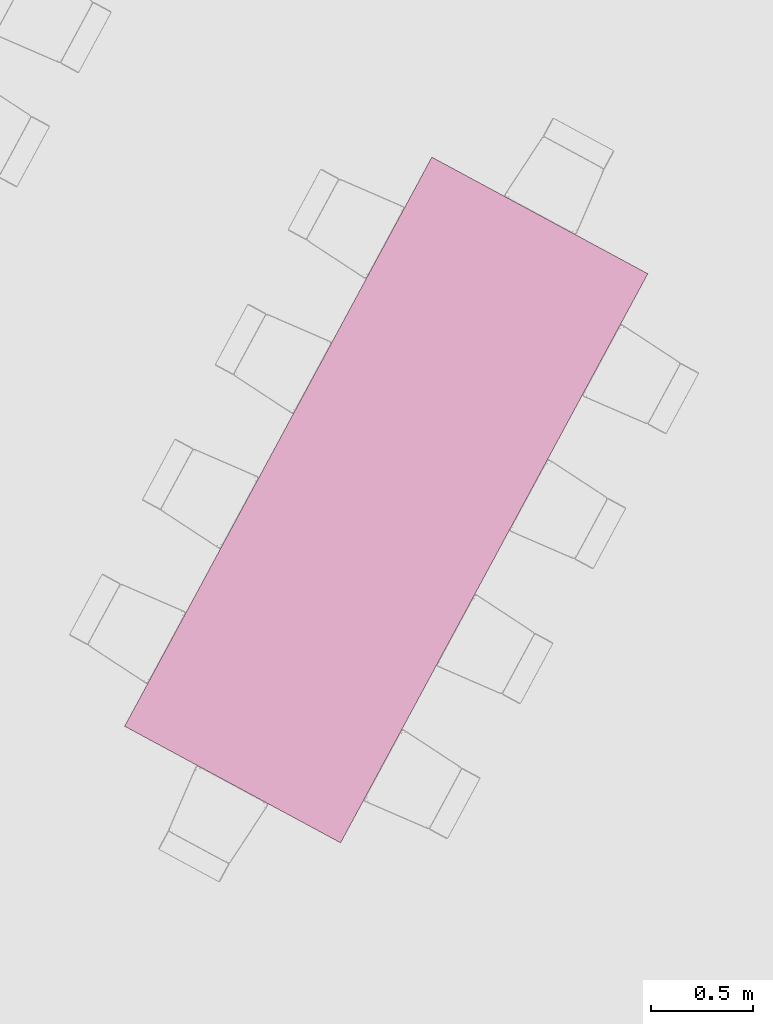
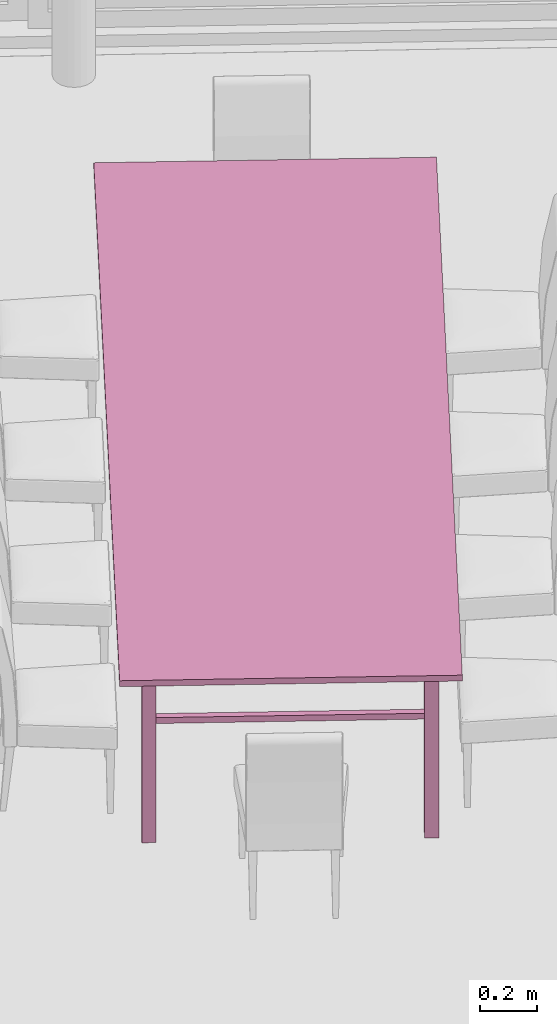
# One storey, part 38 of 52: 1 furnishing.
"""IFC2X3 building model written with IfcOpenShell, lengths in metres."""

from ifc_helpers import new_model, entity, si_unit, converted_unit, derived_unit, money_unit, direction, frame, origin_with_axes, place, context, subcontext, project, spatial, faceted_brep, type_object, element, save


model = new_model("IFC2X3")

# Units and contexts
model_context = context("Model", 3, precision=1e-05, world=origin_with_axes(), true_north=direction((0.0, 1.0)))
body_context = subcontext(model_context, "Body", "Model", "MODEL_VIEW")
ifc_project = project(units=[si_unit("LENGTHUNIT", "METRE"), si_unit("AREAUNIT", "SQUARE_METRE"), si_unit("VOLUMEUNIT", "CUBIC_METRE"), converted_unit("PLANEANGLEUNIT", "DEGREE", entity("IfcPlaneAngleMeasure", 0.0174532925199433), si_unit("PLANEANGLEUNIT", "RADIAN"), dimensions=[0, 0, 0, 0, 0, 0, 0]), money_unit("EUR"), converted_unit("TIMEUNIT", "Year", entity("IfcTimeMeasure", 31556926.0), si_unit("TIMEUNIT", "SECOND"), dimensions=[0, 0, 1, 0, 0, 0, 0]), si_unit("MASSUNIT", "GRAM", prefix="KILO"), si_unit("THERMODYNAMICTEMPERATUREUNIT", "DEGREE_CELSIUS"), si_unit("LUMINOUSINTENSITYUNIT", "LUMEN"), si_unit("ENERGYUNIT", "JOULE", prefix="MEGA"), derived_unit("THERMALCONDUCTANCEUNIT", [(si_unit("POWERUNIT", "WATT"), 1), (si_unit("LENGTHUNIT", "METRE"), -1), (si_unit("THERMODYNAMICTEMPERATUREUNIT", "KELVIN"), -1)]), derived_unit("SPECIFICHEATCAPACITYUNIT", [(si_unit("ENERGYUNIT", "JOULE"), 1), (si_unit("MASSUNIT", "GRAM", prefix="KILO"), -1), (si_unit("THERMODYNAMICTEMPERATUREUNIT", "KELVIN"), -1)]), derived_unit("MASSDENSITYUNIT", [(si_unit("MASSUNIT", "GRAM", prefix="KILO"), 1), (si_unit("VOLUMEUNIT", "CUBIC_METRE"), -1)])], contexts=[model_context])

# Site, building, storey
site_placement = place(None, frame((-3.949935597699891, 1.740105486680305, 0.0), z_axis=(0.0, 0.0, 1.0), x_axis=(0.8799804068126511, -0.475009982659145, 0.0)))
site = spatial("IfcSite", under=ifc_project, at=site_placement, Name="Gelände", CompositionType="ELEMENT")
building_placement = place(site_placement, origin_with_axes())
building = spatial("IfcBuilding", under=site, at=building_placement, Name="Gebäude", CompositionType="ELEMENT")
storey_placement = place(building_placement, origin_with_axes())
storey = spatial("IfcBuildingStorey", under=building, at=storey_placement, Name="Erdgeschoss", CompositionType="ELEMENT", Elevation=0.0)

# Furnishing
furnishing_element_type = type_object("IfcFurnishingElementType", Name="Tisch rechteckig 1 22")
furnishing_placement = place(storey_placement, frame((20.36440704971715, 10.19223236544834, 0.0), z_axis=(0.0, 0.0, 1.0), x_axis=(1.0, 0.0, 0.0)))
element("IfcFurnishingElement", 1, at=furnishing_placement, inside=storey, type_object=furnishing_element_type, Name="Objekt-0073", context=body_context, shape_type="Brep", body=[
    faceted_brep([(0.13, 0.08, 0.0), (0.08, 0.08, 0.0), (0.08, 0.13, 0.0), (0.13, 0.13, 0.0), (0.13, 0.08, 0.725), (0.08, 0.08, 0.725), (0.08, 0.13, 0.725), (0.13, 0.13, 0.725)], [[[0, 1, 2, 3]], [[1, 0, 4, 5]], [[2, 1, 5, 6]], [[3, 2, 6, 7]], [[0, 3, 7, 4]], [[5, 4, 7, 6]]]),
    faceted_brep([(1.119999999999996, 0.08, 0.0), (1.069999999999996, 0.08, 0.0), (1.069999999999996, 0.13, 0.0), (1.119999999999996, 0.13, 0.0), (1.119999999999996, 0.08, 0.725), (1.069999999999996, 0.08, 0.725), (1.069999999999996, 0.13, 0.725), (1.119999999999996, 0.13, 0.725)], [[[0, 1, 2, 3]], [[1, 0, 4, 5]], [[2, 1, 5, 6]], [[3, 2, 6, 7]], [[0, 3, 7, 4]], [[5, 4, 7, 6]]]),
    faceted_brep([(0.13, 3.032064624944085, 0.0), (0.08, 3.032064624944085, 0.0), (0.08, 3.082064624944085, 0.0), (0.13, 3.082064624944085, 0.0), (0.13, 3.032064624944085, 0.725), (0.08, 3.032064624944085, 0.725), (0.08, 3.082064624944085, 0.725), (0.13, 3.082064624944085, 0.725)], [[[0, 1, 2, 3]], [[1, 0, 4, 5]], [[2, 1, 5, 6]], [[3, 2, 6, 7]], [[0, 3, 7, 4]], [[5, 4, 7, 6]]]),
    faceted_brep([(1.119999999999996, 3.032064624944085, 0.0), (1.069999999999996, 3.032064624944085, 0.0), (1.069999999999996, 3.082064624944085, 0.0), (1.119999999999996, 3.082064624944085, 0.0), (1.119999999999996, 3.032064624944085, 0.725), (1.069999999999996, 3.032064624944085, 0.725), (1.069999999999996, 3.082064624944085, 0.725), (1.119999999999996, 3.082064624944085, 0.725)], [[[0, 1, 2, 3]], [[1, 0, 4, 5]], [[2, 1, 5, 6]], [[3, 2, 6, 7]], [[0, 3, 7, 4]], [[5, 4, 7, 6]]]),
    faceted_brep([(1.199999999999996, 0.0, 0.725), (0.0, 0.0, 0.725), (0.0, 3.162064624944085, 0.725), (1.199999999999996, 3.162064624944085, 0.725), (1.199999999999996, 0.0, 0.75), (0.0, 0.0, 0.75), (0.0, 3.162064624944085, 0.75), (1.199999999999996, 3.162064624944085, 0.75)], [[[0, 1, 2, 3]], [[1, 0, 4, 5]], [[2, 1, 5, 6]], [[3, 2, 6, 7]], [[0, 3, 7, 4]], [[5, 4, 7, 6]]]),
    faceted_brep([(1.069999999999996, 0.0925, 0.5), (0.13, 0.0925, 0.5), (0.13, 0.1175, 0.5), (1.069999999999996, 0.1175, 0.5), (1.069999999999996, 0.0925, 0.525), (0.13, 0.0925, 0.525), (0.13, 0.1175, 0.525), (1.069999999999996, 0.1175, 0.525)], [[[0, 1, 2, 3]], [[1, 0, 4, 5]], [[2, 1, 5, 6]], [[3, 2, 6, 7]], [[0, 3, 7, 4]], [[5, 4, 7, 6]]]),
    faceted_brep([(0.1175, 0.13, 0.5), (0.0925, 0.13, 0.5), (0.0925, 3.032064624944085, 0.5), (0.1175, 3.032064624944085, 0.5), (0.1175, 0.13, 0.525), (0.0925, 0.13, 0.525), (0.0925, 3.032064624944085, 0.525), (0.1175, 3.032064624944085, 0.525)], [[[0, 1, 2, 3]], [[1, 0, 4, 5]], [[2, 1, 5, 6]], [[3, 2, 6, 7]], [[0, 3, 7, 4]], [[5, 4, 7, 6]]]),
    faceted_brep([(0.1300000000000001, 3.069564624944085, 0.5), (1.069999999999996, 3.069564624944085, 0.5), (1.069999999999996, 3.044564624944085, 0.5), (0.1300000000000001, 3.044564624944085, 0.5), (0.1300000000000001, 3.069564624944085, 0.525), (1.069999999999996, 3.069564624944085, 0.525), (1.069999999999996, 3.044564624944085, 0.525), (0.1300000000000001, 3.044564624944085, 0.525)], [[[0, 1, 2, 3]], [[1, 0, 4, 5]], [[2, 1, 5, 6]], [[3, 2, 6, 7]], [[0, 3, 7, 4]], [[5, 4, 7, 6]]]),
    faceted_brep([(1.082499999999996, 3.032064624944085, 0.5), (1.107499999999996, 3.032064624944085, 0.5), (1.107499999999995, 0.1299999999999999, 0.5), (1.082499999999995, 0.1299999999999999, 0.5), (1.082499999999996, 3.032064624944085, 0.525), (1.107499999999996, 3.032064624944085, 0.525), (1.107499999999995, 0.1299999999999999, 0.525), (1.082499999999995, 0.1299999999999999, 0.525)], [[[0, 1, 2, 3]], [[1, 0, 4, 5]], [[2, 1, 5, 6]], [[3, 2, 6, 7]], [[0, 3, 7, 4]], [[5, 4, 7, 6]]]),
])

save(model, "model.ifc")
